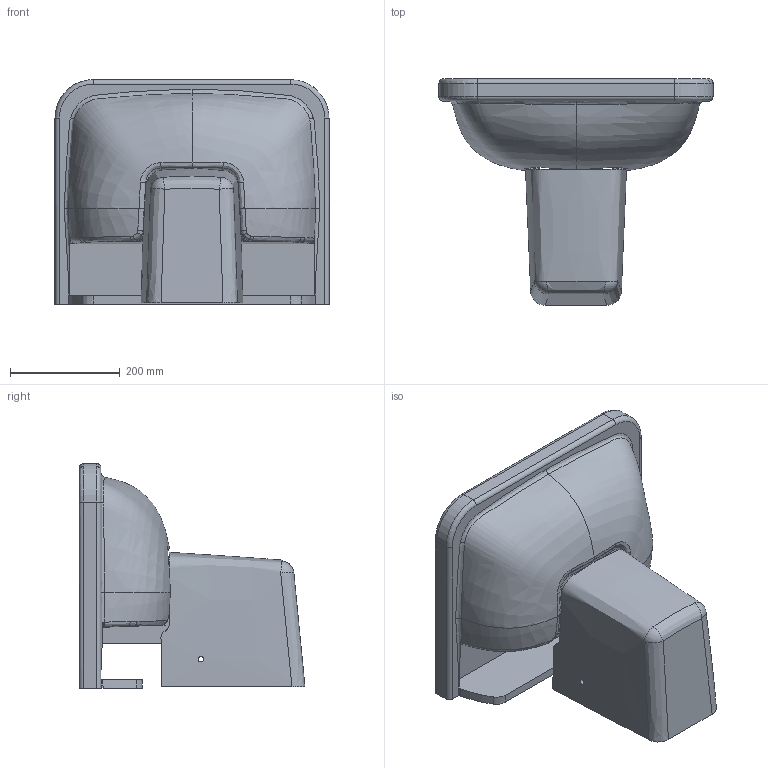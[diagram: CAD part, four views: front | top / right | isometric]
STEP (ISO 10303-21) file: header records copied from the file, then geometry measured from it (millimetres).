
FILE_DESCRIPTION (( 'STEP AP203' ), '1' );
FILE_NAME ('KY050-00CB00E-0000+KY260-00CB00E-0000.STEP', '2022-12-12T07:43:24', ( '' ), ( '' ), 'SwSTEP 2.0', 'SolidWorks 2021', '' );
FILE_SCHEMA (( 'CONFIG_CONTROL_DESIGN' ));
Products named in the file (1): KY050-00CB00E-0000+KY260-00CB00E-0000
Bounding box: 500 x 412.19 x 410 mm (x, y, z)
Surface area: 1136690.6 mm2 (no closed solid volume)
Topology: 0 solids, 4 shells, 247 faces, 666 edges, 416 vertices
Faces by surface type: bspline 150, plane 48, cylinder 35, cone 6, sphere 4, torus 4
Entity records: 67374 total; most frequent: CARTESIAN_POINT 63152, ORIENTED_EDGE 1307, EDGE_CURVE 656, B_SPLINE_CURVE_WITH_KNOTS 572, VERTEX_POINT 416, EDGE_LOOP 257, FACE_OUTER_BOUND 247, ADVANCED_FACE 247
